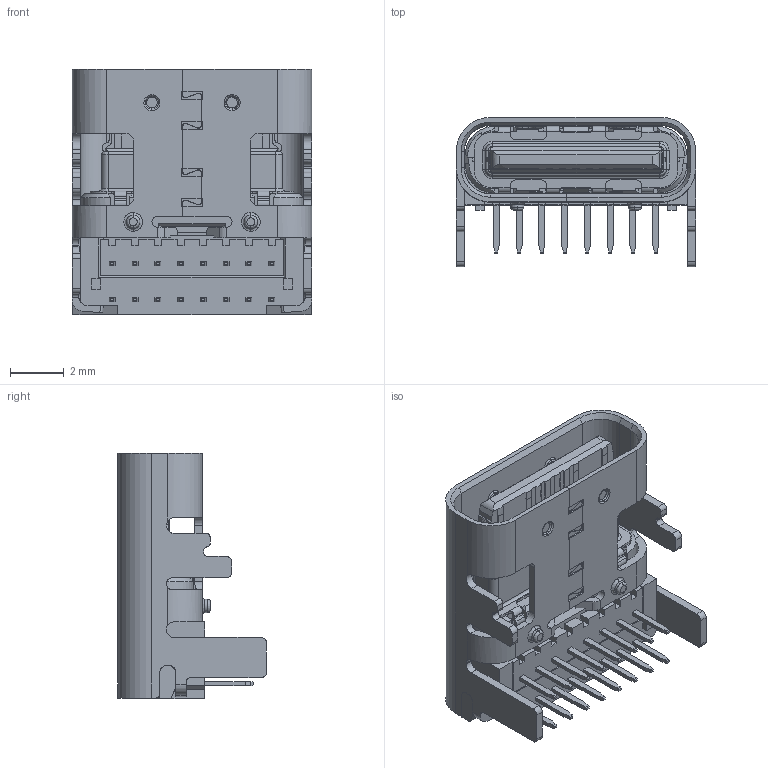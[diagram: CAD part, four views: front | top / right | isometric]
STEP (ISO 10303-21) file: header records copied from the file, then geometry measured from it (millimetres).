
FILE_DESCRIPTION (( 'STEP AP214' ), '1' );
FILE_NAME ('USB4085-XX-A_revB base on Aike.STEP', '2023-05-19T04:10:55', ( '' ), ( '' ), 'SwSTEP 2.0', 'SolidWorks 2021', '' );
FILE_SCHEMA (( 'AUTOMOTIVE_DESIGN' ));
Length unit declared in the file: millimetre
Products named in the file (3): SHELL; molding_asm; USB4085-XX-A_revB base on Aike
Assembly tree (2 placements, depth 2):
  USB4085-XX-A_revB base on Aike
    molding_asm
    SHELL
Bounding box: 8.94 x 5.56 x 9.17 mm (x, y, z)
Volume: 165.5 mm3; surface area: 675.3 mm2
Topology: 2 solids, 2 shells, 1426 faces, 3930 edges, 2541 vertices
Faces by surface type: plane 1078, cylinder 240, bspline 88, cone 20
Entity records: 59984 total; most frequent: CARTESIAN_POINT 21301, ORIENTED_EDGE 7860, DIRECTION 6560, EDGE_CURVE 3930, VECTOR 3076, LINE 3076, VERTEX_POINT 2541, AXIS2_PLACEMENT_3D 1742
